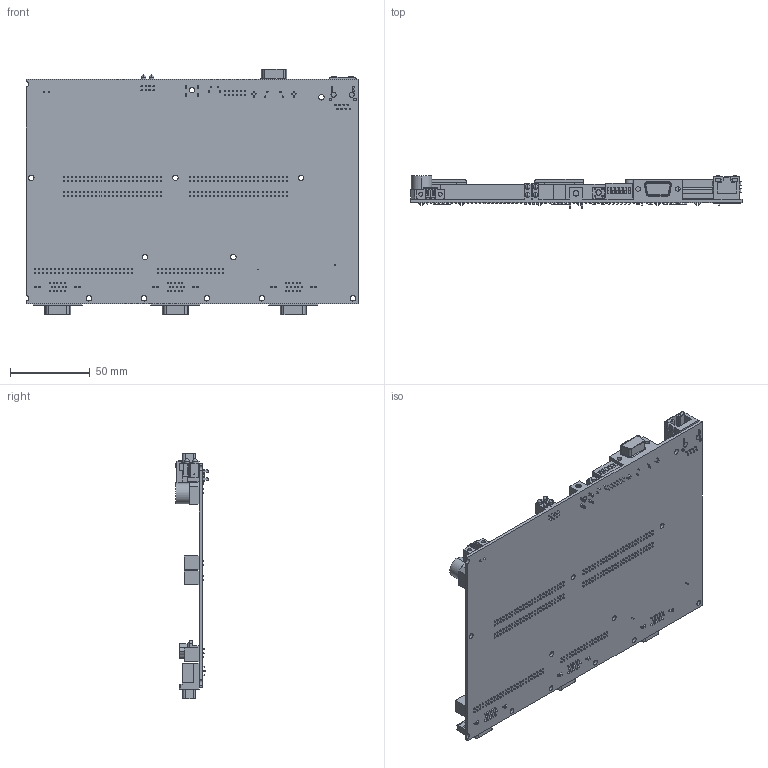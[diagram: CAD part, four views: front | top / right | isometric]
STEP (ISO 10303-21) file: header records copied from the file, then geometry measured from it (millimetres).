
FILE_DESCRIPTION((''),'2;1');
FILE_NAME('CU_CCA_DWOOD','2008-07-30T',('scarrasc'),(''),'PRO/ENGINEER BY PARAMETRIC TECHNOLOGY CORPORATION, 2006300','PRO/ENGINEER BY PARAMETRIC TECHNOLOGY CORPORATION, 2006300','');
FILE_SCHEMA(('CONFIG_CONTROL_DESIGN'));
Products named in the file (1): CU_CCA_DWOOD
Bounding box: 208.28 x 20.62 x 154.03 mm (x, y, z)
Volume: 108850.6 mm3; surface area: 95086.7 mm2
Topology: 1 solids, 1 shells, 4214 faces, 10328 edges, 6860 vertices
Faces by surface type: plane 3883, cylinder 287, cone 26, torus 10, sphere 8
Entity records: 122211 total; most frequent: CARTESIAN_POINT 21573, ORIENTED_EDGE 20640, DIRECTION 19384, EDGE_CURVE 10320, VECTOR 9668, LINE 9668, VERTEX_POINT 6860, EDGE_LOOP 5056
